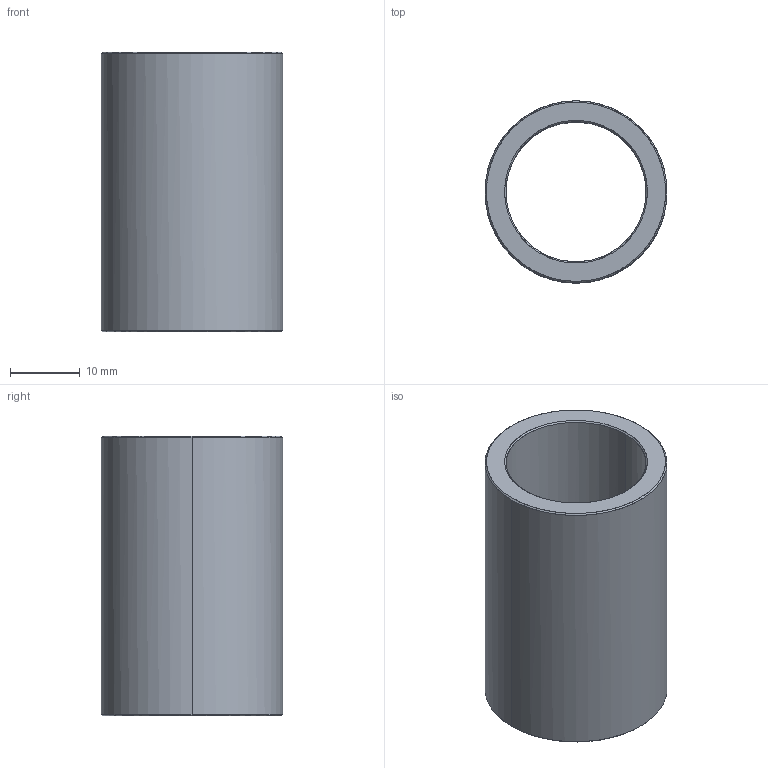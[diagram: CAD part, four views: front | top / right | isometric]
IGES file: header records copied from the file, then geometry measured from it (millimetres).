
Start section: Write IGES format                                    datakit 2008 (c)
Global section: file name: Unknown; native system: DATAKIT Converter; preprocessor: Unknown; author: Unknown; organization: Unknown; date: 950613.180003; units: millimetre
Bounding box: 26 x 26 x 40 mm (x, y, z)
Surface area: 6180.2 mm2 (no closed solid volume)
Topology: 0 solids, 0 shells, 14 faces, 56 edges, 56 vertices
Faces by surface type: revolution 12, bspline 2
